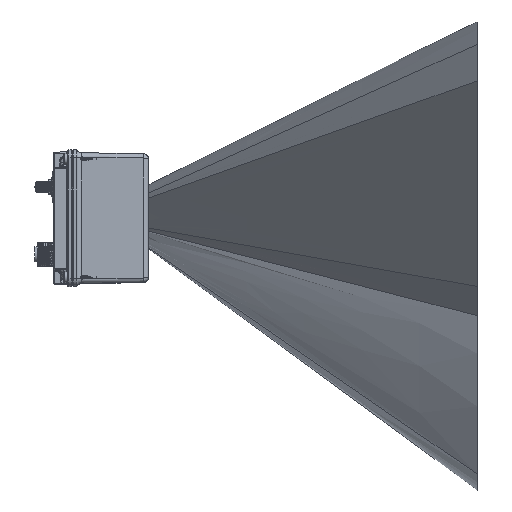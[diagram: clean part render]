
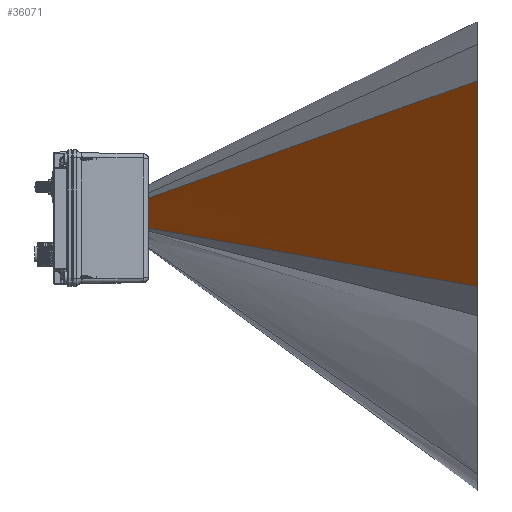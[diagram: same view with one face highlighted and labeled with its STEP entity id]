
A CAD part, top view. The second image highlights one B-rep face of the part: STEP entity #36071.
In plain terms, the highlighted free-form (B-spline) face has degree [3, 3] with [4, 4] control points.
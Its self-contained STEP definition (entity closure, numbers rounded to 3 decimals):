
#453=B_SPLINE_SURFACE_WITH_KNOTS('',3,3,((#122724,#122725,#122726,#122727),
(#122728,#122729,#122730,#122731),(#122732,#122733,#122734,#122735),(#122736,
#122737,#122738,#122739)),.UNSPECIFIED.,.F.,.F.,.F.,(4,4),(4,4),(0.,1.),
(0.,1.),.UNSPECIFIED.);
#5362=FACE_OUTER_BOUND('',#7488,.T.);
#7488=EDGE_LOOP('',(#31584,#31585,#31586,#31587));
#9010=LINE('',#122653,#10540);
#9017=LINE('',#122701,#10547);
#9018=LINE('',#122723,#10548);
#9019=LINE('',#122740,#10549);
#10540=VECTOR('',#49147,10.);
#10547=VECTOR('',#49170,10.);
#10548=VECTOR('',#49171,319.208);
#10549=VECTOR('',#49172,310.906);
#15942=VERTEX_POINT('',#122650);
#15943=VERTEX_POINT('',#122652);
#15958=VERTEX_POINT('',#122698);
#15959=VERTEX_POINT('',#122700);
#21152=EDGE_CURVE('',#15942,#15943,#9010,.T.);
#21169=EDGE_CURVE('',#15959,#15958,#9017,.T.);
#21171=EDGE_CURVE('',#15959,#15942,#9018,.T.);
#21172=EDGE_CURVE('',#15958,#15943,#9019,.T.);
#31584=ORIENTED_EDGE('',*,*,#21169,.T.);
#31585=ORIENTED_EDGE('',*,*,#21172,.T.);
#31586=ORIENTED_EDGE('',*,*,#21152,.F.);
#31587=ORIENTED_EDGE('',*,*,#21171,.F.);
#36071=ADVANCED_FACE('',(#5362),#453,.T.);
#49147=DIRECTION('',(0.,-0.999,-0.035));
#49170=DIRECTION('',(0.,-1.,-0.013));
#49171=DIRECTION('',(0.595,0.211,0.775));
#49172=DIRECTION('',(0.611,-0.11,0.784));
#122650=CARTESIAN_POINT('',(200.,75.,269.));
#122652=CARTESIAN_POINT('',(200.,-38.,265.054));
#122653=CARTESIAN_POINT('',(200.,75.,269.));
#122698=CARTESIAN_POINT('',(10.,-3.781,21.351));
#122700=CARTESIAN_POINT('',(10.,7.639,21.5));
#122701=CARTESIAN_POINT('',(10.,7.639,21.5));
#122723=CARTESIAN_POINT('',(10.,7.639,21.5));
#122724=CARTESIAN_POINT('Ctrl Pts',(10.,7.639,21.5));
#122725=CARTESIAN_POINT('Ctrl Pts',(73.333,30.093,104.));
#122726=CARTESIAN_POINT('Ctrl Pts',(136.667,52.546,186.5));
#122727=CARTESIAN_POINT('Ctrl Pts',(200.,75.,269.));
#122728=CARTESIAN_POINT('Ctrl Pts',(10.,3.832,21.45));
#122729=CARTESIAN_POINT('Ctrl Pts',(73.333,14.999,103.528));
#122730=CARTESIAN_POINT('Ctrl Pts',(136.667,26.166,185.606));
#122731=CARTESIAN_POINT('Ctrl Pts',(200.,37.333,267.685));
#122732=CARTESIAN_POINT('Ctrl Pts',(10.,0.026,21.4));
#122733=CARTESIAN_POINT('Ctrl Pts',(73.333,-0.094,
103.057));
#122734=CARTESIAN_POINT('Ctrl Pts',(136.667,-0.214,
184.713));
#122735=CARTESIAN_POINT('Ctrl Pts',(200.,-0.333,266.369));
#122736=CARTESIAN_POINT('Ctrl Pts',(10.,-3.781,21.351));
#122737=CARTESIAN_POINT('Ctrl Pts',(73.333,-15.187,
102.585));
#122738=CARTESIAN_POINT('Ctrl Pts',(136.667,-26.594,
183.819));
#122739=CARTESIAN_POINT('Ctrl Pts',(200.,-38.,265.054));
#122740=CARTESIAN_POINT('',(10.,-3.781,21.351));
